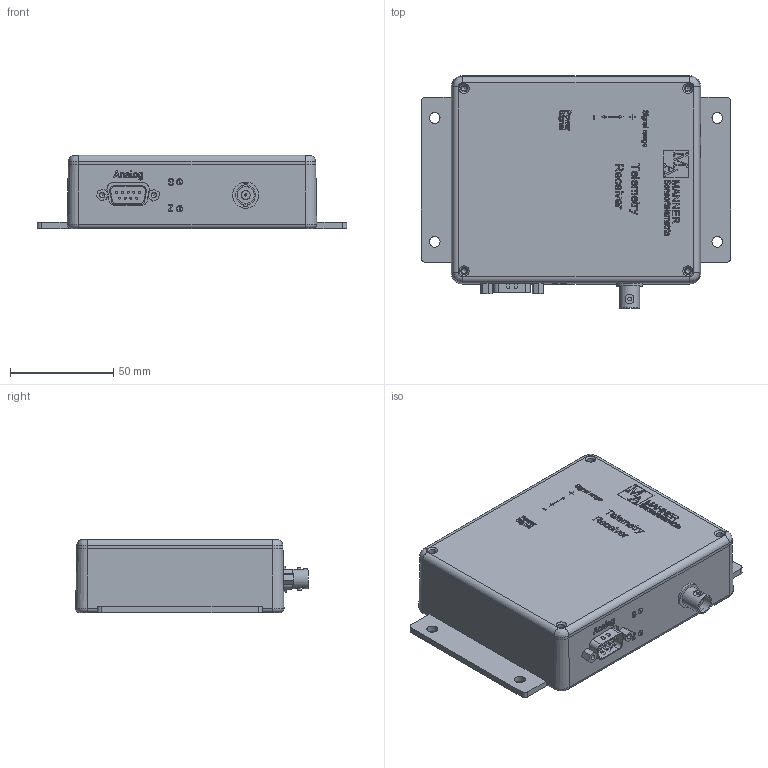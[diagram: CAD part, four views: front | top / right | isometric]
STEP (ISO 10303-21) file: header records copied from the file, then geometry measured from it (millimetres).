
FILE_DESCRIPTION(/* description */ (''),/* implementation_level */ '2;1');
FILE_NAME(/* name */ 'F:\daten\PRODUKTE\TELEMETR\AW\Mechanik\P\3W\3W\kunde\ZSB_3W_kunde.stp',/* time_stamp */ '2019-09-03T15:20:45+02:00',/* author */ ('dschaefer'),/* organization */ (''),/* preprocessor_version */ 'ST-DEVELOPER v16.5',/* originating_system */ 'Autodesk Inventor 2017',/* authorisation */ '');
FILE_SCHEMA (('AUTOMOTIVE_DESIGN { 1 0 10303 214 3 1 1 }'));
Products named in the file (1): ZSB_3W_kunde
Bounding box: 150 x 112.8 x 35.5 mm (x, y, z)
Volume: 99626.4 mm3; surface area: 86835.9 mm2
Topology: 18 solids, 20 shells, 1836 faces, 4767 edges, 3128 vertices
Faces by surface type: plane 937, bspline 563, cylinder 269, cone 49, torus 18
Full cylindrical faces by diameter (mm): 0.65 x9, 0.686 x1, 1 x9, 1.067 x1, 1.416 x2, 1.54 x9, 1.6 x2, 1.88 x2, 2.108 x1, 2.224 x2, 2.459 x4, 2.5 x2, 2.642 x2, 2.7 x2, 2.8 x4, 3 x12, 3.1 x2, 3.5 x4, 4.318 x1, 4.7 x2, 5.2 x4, 5.359 x1, 8.255 x1, 9.614 x1, 12.636 x1
Entity records: 61632 total; most frequent: CARTESIAN_POINT 18684, ORIENTED_EDGE 9254, DIRECTION 6722, EDGE_CURVE 4597, VERTEX_POINT 3071, LINE 2840, VECTOR 2840, EDGE_LOOP 2154
